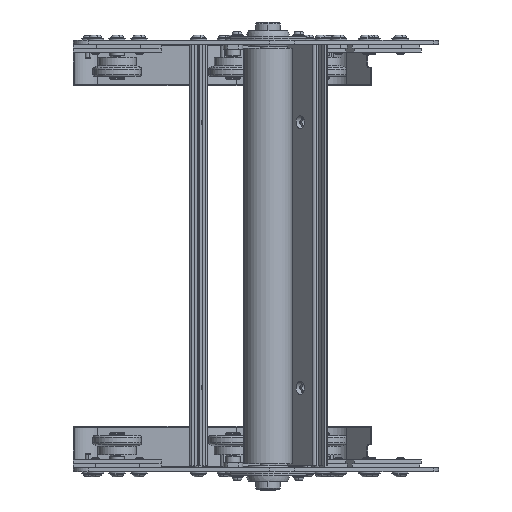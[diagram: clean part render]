
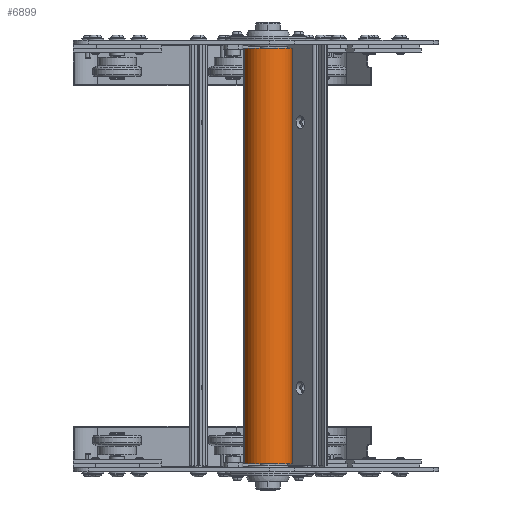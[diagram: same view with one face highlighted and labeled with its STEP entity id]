
A CAD part, front view. The second image highlights one B-rep face of the part: STEP entity #6899.
In plain terms, the highlighted cylindrical face has radius 25 mm (diameter 50 mm), a partial arc.
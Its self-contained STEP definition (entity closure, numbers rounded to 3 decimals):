
#748 = VECTOR ( 'NONE', #13916, 1000. ) ;
#977 = AXIS2_PLACEMENT_3D ( 'NONE', #18183, #18265, #16202 ) ;
#1523 = DIRECTION ( 'NONE',  ( 0., 0., -1. ) ) ;
#2149 = CARTESIAN_POINT ( 'NONE',  ( 25., 0., -213.5 ) ) ;
#3154 = CIRCLE ( 'NONE', #7744, 25. ) ;
#3239 = ORIENTED_EDGE ( 'NONE', *, *, #13015, .F. ) ;
#5141 = VERTEX_POINT ( 'NONE', #5230 ) ;
#5230 = CARTESIAN_POINT ( 'NONE',  ( -25., 0., 213.5 ) ) ;
#5973 = DIRECTION ( 'NONE',  ( 0., 0., 1. ) ) ;
#6899 = ADVANCED_FACE ( 'NONE', ( #21521 ), #16411, .T. ) ;
#7206 = VERTEX_POINT ( 'NONE', #19813 ) ;
#7394 = VERTEX_POINT ( 'NONE', #7583 ) ;
#7583 = CARTESIAN_POINT ( 'NONE',  ( 25., 0., -213.5 ) ) ;
#7744 = AXIS2_PLACEMENT_3D ( 'NONE', #17792, #1523, #10440 ) ;
#8301 = DIRECTION ( 'NONE',  ( 0., 0., 1. ) ) ;
#8324 = EDGE_CURVE ( 'NONE', #17880, #5141, #3154, .T. ) ;
#8473 = EDGE_CURVE ( 'NONE', #7394, #7206, #11812, .T. ) ;
#8714 = EDGE_CURVE ( 'NONE', #7394, #17880, #22543, .T. ) ;
#9922 = ORIENTED_EDGE ( 'NONE', *, *, #8473, .F. ) ;
#10095 = VECTOR ( 'NONE', #5973, 1000. ) ;
#10307 = CARTESIAN_POINT ( 'NONE',  ( -25., 0., -213.5 ) ) ;
#10440 = DIRECTION ( 'NONE',  ( -1., 0., 0. ) ) ;
#11812 = CIRCLE ( 'NONE', #977, 25. ) ;
#13015 = EDGE_CURVE ( 'NONE', #7206, #5141, #13369, .T. ) ;
#13369 = LINE ( 'NONE', #10307, #748 ) ;
#13916 = DIRECTION ( 'NONE',  ( 0., 0., 1. ) ) ;
#14449 = AXIS2_PLACEMENT_3D ( 'NONE', #22576, #8301, #18798 ) ;
#16202 = DIRECTION ( 'NONE',  ( -1., 0., 0. ) ) ;
#16411 = CYLINDRICAL_SURFACE ( 'NONE', #14449, 25. ) ;
#17792 = CARTESIAN_POINT ( 'NONE',  ( 0., 0., 213.5 ) ) ;
#17821 = CARTESIAN_POINT ( 'NONE',  ( 25., 0., 213.5 ) ) ;
#17880 = VERTEX_POINT ( 'NONE', #17821 ) ;
#18176 = EDGE_LOOP ( 'NONE', ( #3239, #9922, #21366, #20180 ) ) ;
#18183 = CARTESIAN_POINT ( 'NONE',  ( 0., 0., -213.5 ) ) ;
#18265 = DIRECTION ( 'NONE',  ( 0., 0., -1. ) ) ;
#18798 = DIRECTION ( 'NONE',  ( 1., 0., 0. ) ) ;
#19813 = CARTESIAN_POINT ( 'NONE',  ( -25., 0., -213.5 ) ) ;
#20180 = ORIENTED_EDGE ( 'NONE', *, *, #8324, .T. ) ;
#21366 = ORIENTED_EDGE ( 'NONE', *, *, #8714, .T. ) ;
#21521 = FACE_OUTER_BOUND ( 'NONE', #18176, .T. ) ;
#22543 = LINE ( 'NONE', #2149, #10095 ) ;
#22576 = CARTESIAN_POINT ( 'NONE',  ( 0., 0., -213.5 ) ) ;
